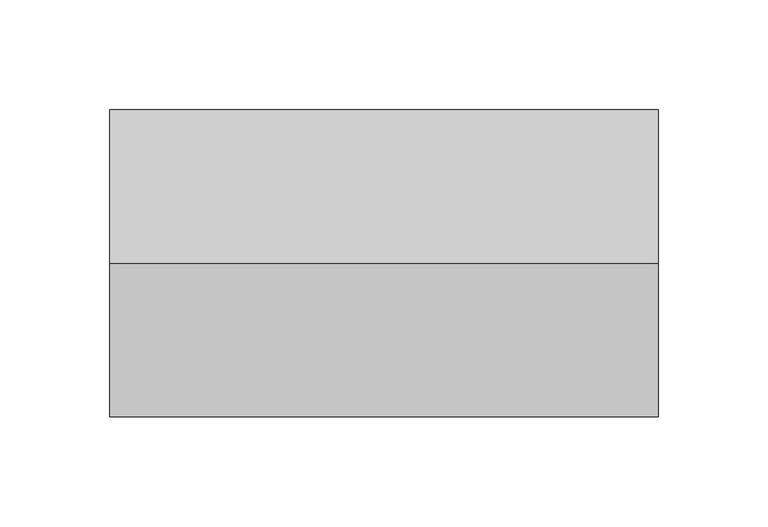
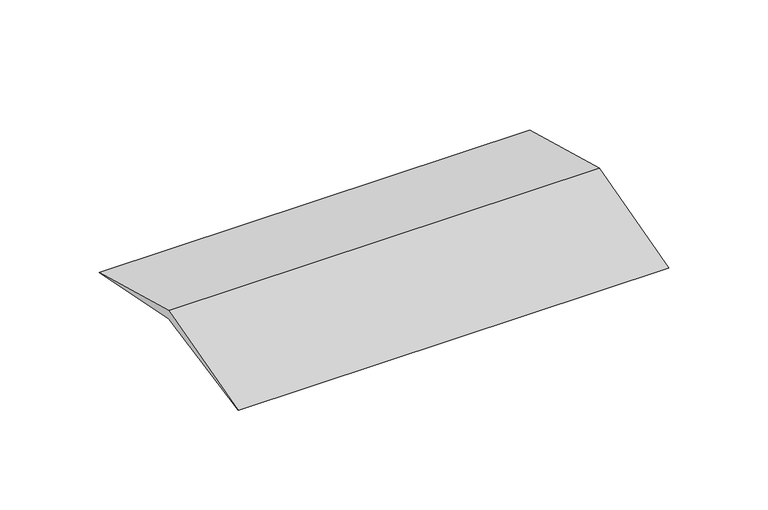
"""IFC4 building model written with IfcOpenShell, lengths in millimetres: cable carrier fitting geometry, КНС_НакладкаНаСтыкФронтальныхКрышекКоробов_ILF_DKC : Накладка на стык фронтальных крышек коробов."""

from ifc_helpers import new_model, si_unit, frame, origin, place, context, project, spatial, polyline, outline, extrude, source, transform, mapped, element, save


def cable_carrier_fitting_0182879c(model_context):
    return source(origin(), model_context, "Body", "SweptSolid", [
        extrude(outline(polyline([(0.0, 39.0), (-70.0, 25.0), (0.0, 44.0), (70.0, 25.0), (0.0, 39.0)])), frame((-125.0, 0.0, 0.0), z_axis=(1.0, 0.0, 0.0), x_axis=(0.0, 1.0, 0.0)), (0.0, 0.0, 1.0), 250.0),
    ])


if __name__ == "__main__":
    model = new_model("IFC4")
    model_context = context("Model", 3, world=origin())
    ifc_project = project(units=[si_unit("LENGTHUNIT", "METRE", prefix="MILLI")], contexts=[model_context])
    site = spatial("IfcSite", under=ifc_project)
    building = spatial("IfcBuilding", under=site)
    placement = place(None, origin())
    cable_carrier_fitting_shape = cable_carrier_fitting_0182879c(model_context)
    element("IfcCableCarrierFitting", 1, ObjectType="КНС_НакладкаНаСтыкФронтальныхКрышекКоробов_ILF_DKC : Накладка на стык фронтальных крышек коробов", at=placement, inside=building, context=model_context, shape_type="MappedRepresentation", body=[
        mapped(cable_carrier_fitting_shape, transform((0.0, 0.0, 0.0), x_axis=(1.0, 0.0, 0.0), y_axis=(0.0, 1.0, 0.0), z_axis=(0.0, 0.0, 1.0))),
    ])
    save(model, "model.ifc")
